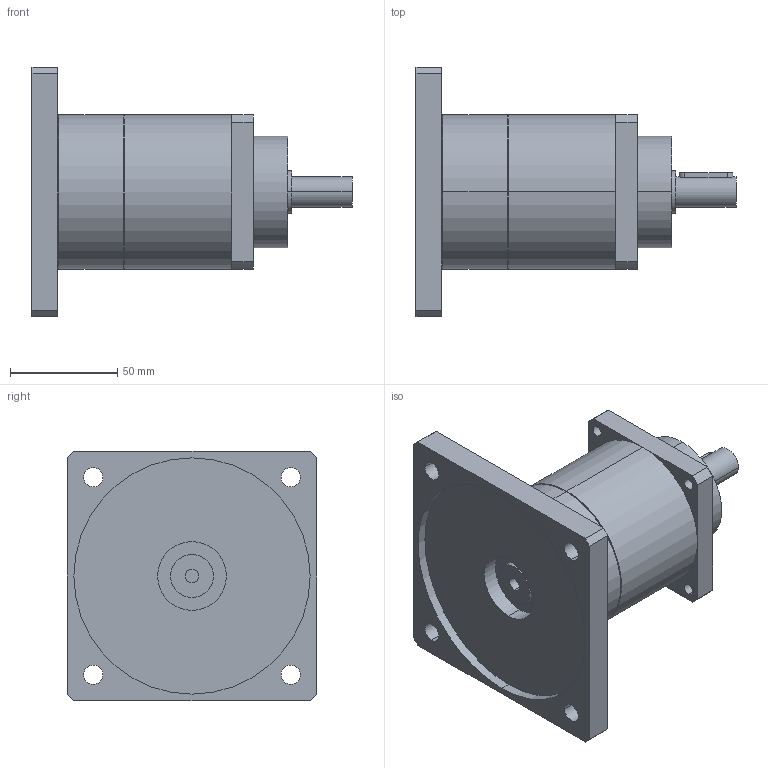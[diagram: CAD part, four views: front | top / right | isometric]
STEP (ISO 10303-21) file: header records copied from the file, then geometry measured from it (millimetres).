
FILE_DESCRIPTION(('CoCreate Modeling STEP Export'),'2;1');
FILE_NAME('GPT75_ig-9-12-16-20-25-28-35-40-50-70-100_14_B5T_6.35_P09.stp','2014-08-27T13:38:41',(''),(''),'CoCreate Modeling STEP processor for AP214 (Solid Model)','CoCreate Modeling 16.00C 25-Feb-2009 (C) Parametric Technology GmbH','');
FILE_SCHEMA(('AUTOMOTIVE_DESIGN { 1 0 10303 214 1 1 1 1 }'));
Length unit declared in the file: millimetre
Products named in the file (2): GPT75_ig-9-12-16-20-25-28-35-40-50-70-100_14_B5T_6.35_P09
Assembly tree (1 placements, depth 2):
  GPT75_ig-9-12-16-20-25-28-35-40-50-70-100_14_B5T_6.35_P09
    GPT75_ig-9-12-16-20-25-28-35-40-50-70-100_14_B5T_6.35_P09
Bounding box: 149 x 116 x 116 mm (x, y, z)
Volume: 528837 mm3; surface area: 64786 mm2
Topology: 1 solids, 1 shells, 77 faces, 194 edges, 129 vertices
Faces by surface type: cylinder 46, plane 27, cone 4
Entity records: 2484 total; most frequent: CARTESIAN_POINT 719, ORIENTED_EDGE 388, DIRECTION 320, EDGE_CURVE 194, VERTEX_POINT 129, AXIS2_PLACEMENT_3D 118, EDGE_LOOP 103, VECTOR 84
